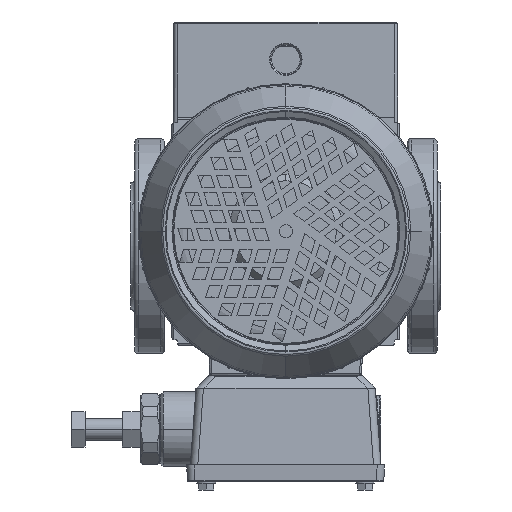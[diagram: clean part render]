
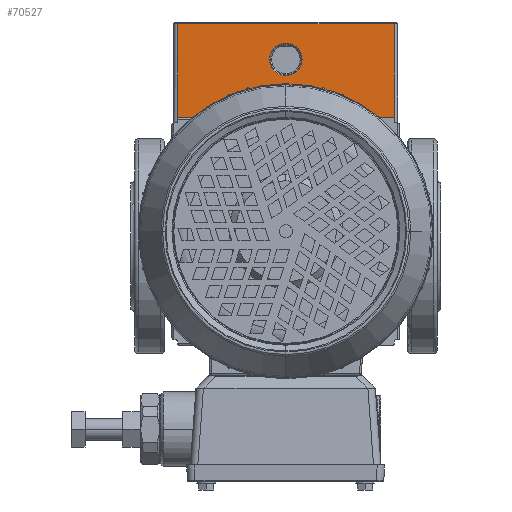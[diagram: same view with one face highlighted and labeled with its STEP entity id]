
A CAD part, front view. The second image highlights one B-rep face of the part: STEP entity #70527.
In plain terms, the highlighted planar face has unit normal (0, -1, 0) as drawn and (0, 0, -1) by its records, which use the part's own axes.
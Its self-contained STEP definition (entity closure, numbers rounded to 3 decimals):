
#58262=CARTESIAN_POINT('',(58.,-21.909,
-178.));
#58282=CARTESIAN_POINT('',(0.,0.,-178.));
#58283=DIRECTION('',(0.,0.,1.));
#58284=DIRECTION('',(-0.935,-0.353,0.));
#58285=AXIS2_PLACEMENT_3D('',#58282,#58283,#58284);
#58294=CARTESIAN_POINT('',(-58.,-21.909,
-178.));
#59278=CARTESIAN_POINT('',(0.,-92.,-178.));
#59279=DIRECTION('',(0.,0.,1.));
#59280=DIRECTION('',(-1.,0.,0.));
#59281=AXIS2_PLACEMENT_3D('',#59278,#59279,#59280);
#59283=CARTESIAN_POINT('',(0.,-92.,-178.));
#59284=DIRECTION('',(0.,0.,1.));
#59285=DIRECTION('',(1.,0.,0.));
#59286=AXIS2_PLACEMENT_3D('',#59283,#59284,#59285);
#59288=DIRECTION('',(-1.,0.,0.));
#59289=VECTOR('',#59288,116.);
#59290=CARTESIAN_POINT('',(58.,-111.,-178.));
#59291=LINE('',#59290,#59289);
#59292=DIRECTION('',(0.,-1.,0.));
#59293=VECTOR('',#59292,89.091);
#59294=CARTESIAN_POINT('',(58.,-21.909,
-178.));
#59295=LINE('',#59294,#59293);
#59296=DIRECTION('',(0.,-1.,0.));
#59297=VECTOR('',#59296,89.091);
#59298=CARTESIAN_POINT('',(-58.,-21.909,
-178.));
#59299=LINE('',#59298,#59297);
#65166=CARTESIAN_POINT('',(-8.65,-92.,-178.));
#65167=CARTESIAN_POINT('',(8.65,-92.,-178.));
#65168=VERTEX_POINT('',#65166);
#65169=VERTEX_POINT('',#65167);
#65206=CARTESIAN_POINT('',(58.,-111.,-178.));
#65207=CARTESIAN_POINT('',(-58.,-111.,-178.));
#65208=VERTEX_POINT('',#65206);
#65209=VERTEX_POINT('',#65207);
#65663=VERTEX_POINT('',#58294);
#65664=VERTEX_POINT('',#58262);
#70509=CARTESIAN_POINT('',(-60.,-115.,-178.));
#70510=DIRECTION('',(0.,0.,-1.));
#70511=DIRECTION('',(1.,0.,0.));
#70512=AXIS2_PLACEMENT_3D('',#70509,#70510,#70511);
#70513=PLANE('',#70512);
#70515=ORIENTED_EDGE('',*,*,#70514,.F.);
#70517=ORIENTED_EDGE('',*,*,#70516,.F.);
#70518=ORIENTED_EDGE('',*,*,#69138,.F.);
#70519=ORIENTED_EDGE('',*,*,#69295,.T.);
#70520=EDGE_LOOP('',(#70515,#70517,#70518,#70519));
#70521=FACE_OUTER_BOUND('',#70520,.F.);
#70522=ORIENTED_EDGE('',*,*,#70499,.F.);
#70524=ORIENTED_EDGE('',*,*,#70523,.F.);
#70525=EDGE_LOOP('',(#70522,#70524));
#70526=FACE_BOUND('',#70525,.F.);
#70527=ADVANCED_FACE('',(#70521,#70526),#70513,.T.);
#58286=CIRCLE('',#58285,62.);
#59282=CIRCLE('',#59281,8.65);
#59287=CIRCLE('',#59286,8.65);
#69138=EDGE_CURVE('',#65663,#65664,#58286,.T.);
#69295=EDGE_CURVE('',#65663,#65209,#59299,.T.);
#70499=EDGE_CURVE('',#65168,#65169,#59282,.T.);
#70514=EDGE_CURVE('',#65208,#65209,#59291,.T.);
#70516=EDGE_CURVE('',#65664,#65208,#59295,.T.);
#70523=EDGE_CURVE('',#65169,#65168,#59287,.T.);
